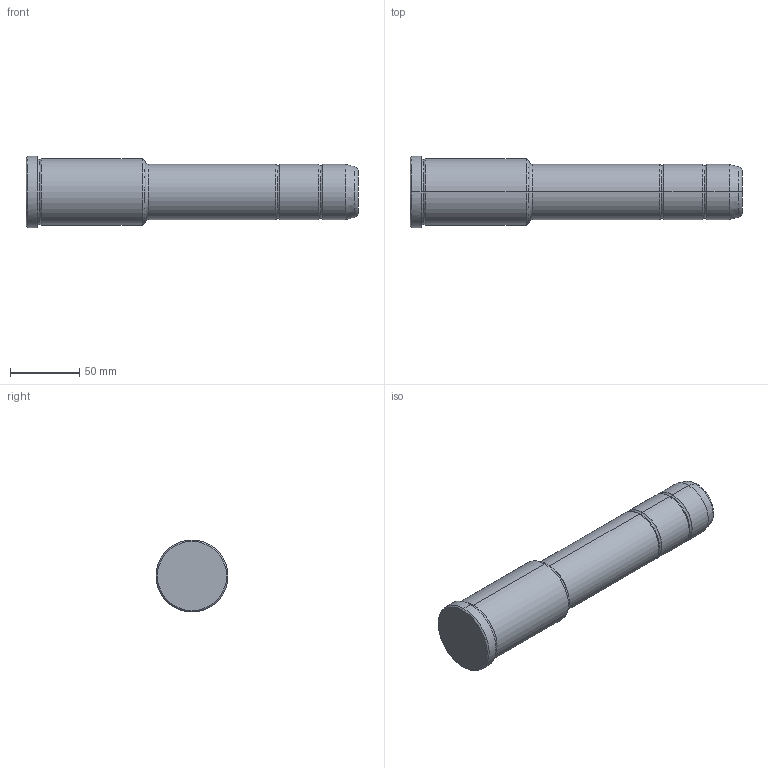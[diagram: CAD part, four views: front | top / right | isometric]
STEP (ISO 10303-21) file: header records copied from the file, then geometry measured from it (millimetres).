
FILE_DESCRIPTION(('CATIA V5 STEP Exchange'),'2;1');
FILE_NAME('C:\Users\Utente\Desktop\IO LAVORO\3D X SITO CF\X SITO\PLASTICA\351\351-40X86X240.stp','2021-10-07T14:14:49+00:00',('none'),('none'),'CATIA Version 5 Release 20 GA (IN-10)','CATIA V5 STEP AP203','none');
FILE_SCHEMA(('CONFIG_CONTROL_DESIGN'));
Length unit declared in the file: millimetre
Products named in the file (1): 351-40X86X240
Bounding box: 240 x 52 x 52 mm (x, y, z)
Volume: 349473.5 mm3; surface area: 36116.6 mm2
Topology: 1 solids, 1 shells, 36 faces, 102 edges, 70 vertices
Faces by surface type: torus 16, cylinder 10, cone 6, plane 4
Entity records: 1292 total; most frequent: CARTESIAN_POINT 321, ORIENTED_EDGE 204, DIRECTION 166, AXIS2_PLACEMENT_3D 115, EDGE_CURVE 102, CIRCLE 78, VERTEX_POINT 70, EDGE_LOOP 38
